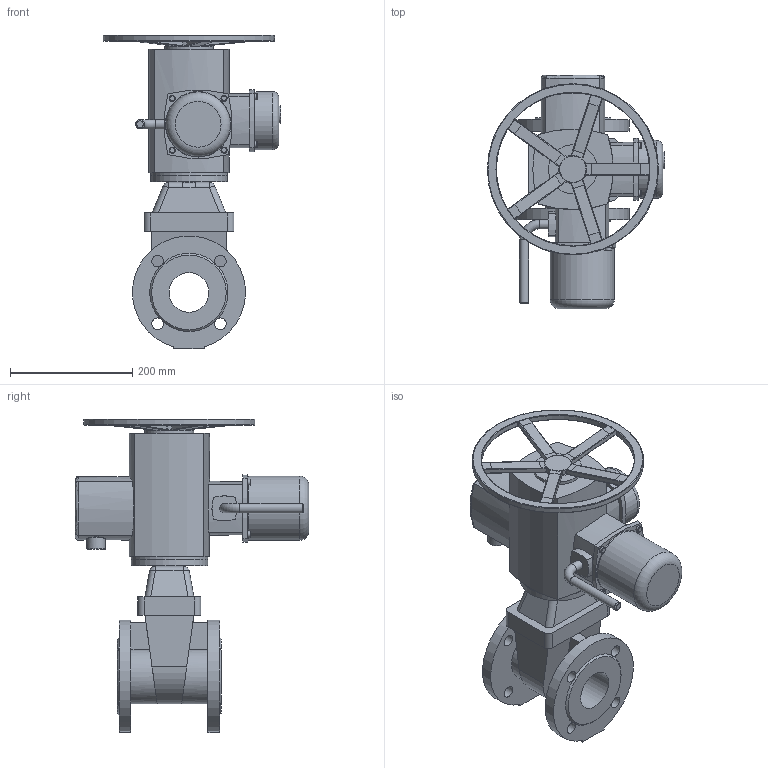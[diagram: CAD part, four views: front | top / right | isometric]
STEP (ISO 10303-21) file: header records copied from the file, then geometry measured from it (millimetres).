
FILE_DESCRIPTION(('STEP AP203'), '1');
FILE_NAME('青溻桄赅 47GVA DN65 PN10_PN16+MT903.Z05', '', ('UNSPECIFIED'), ('UNSPECIFIED'), 'ASCON STEP Converter 1.6', 'ASCON Math Kernel', '');
FILE_SCHEMA(('CONFIG_CONTROL_DESIGN'));
Length unit declared in the file: millimetre
Bounding box: 290 x 382 x 513.5 mm (x, y, z)
Volume: 9244702.6 mm3; surface area: 629760.7 mm2
Topology: 2 solids, 2 shells, 388 faces, 942 edges, 575 vertices
Faces by surface type: cylinder 185, plane 162, torus 25, bspline 9, cone 7
Full cylindrical faces by diameter (mm): 8.376 x4, 10 x8, 12 x4, 15 x2, 18 x1, 19 x8, 24 x1, 28 x2, 29.22 x1, 30 x1, 50 x1, 65 x1, 70 x2, 80 x1, 95 x1, 105 x1, 125 x2, 280 x1
Entity records: 19288 total; most frequent: CARTESIAN_POINT 7800, ORIENTED_EDGE 1716, DIRECTION 1645, EDGE_CURVE 858, AXIS2_PLACEMENT_3D 650, VERTEX_POINT 568, EDGE_LOOP 518, FACE_BOUND 393
